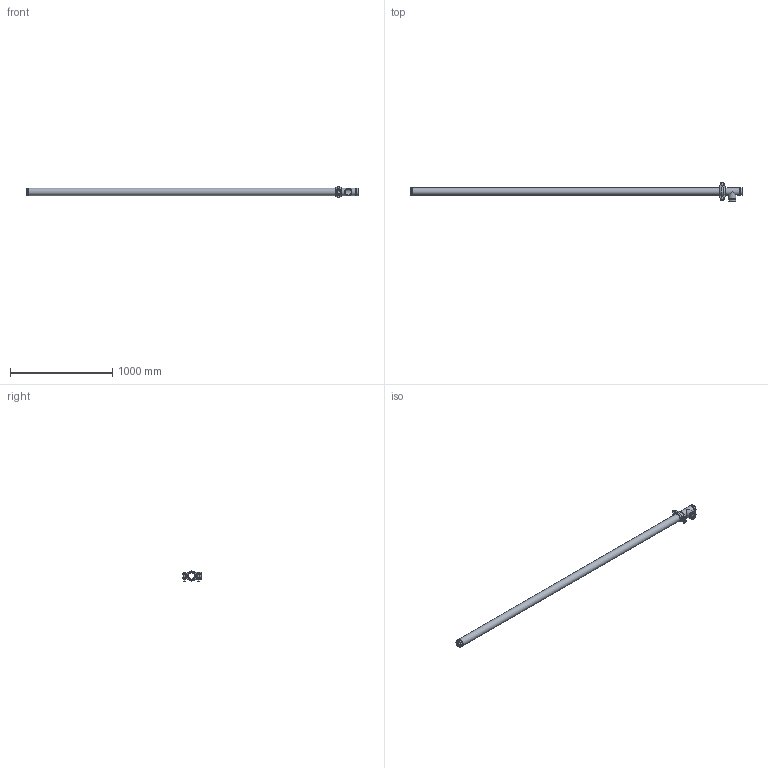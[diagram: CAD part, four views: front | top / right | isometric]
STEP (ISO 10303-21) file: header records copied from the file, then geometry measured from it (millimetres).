
FILE_DESCRIPTION(/* description */ ('VIC LONG RUN FITTING No R15 (OGS)','CAx-IF Rec.Pracs.---Representation and Presentation of Product Manufacturing Information (PMI)---4.0---2014-10-13'),/* implementation_level */ '2;1');
FILE_NAME(/* name */ 'C:\Users\Vjadhav\AppData\Roaming\Autodesk\ApplicationPlugins\Back Up\Victaulic_IPS_Long Run Fittings_No R15 (OGS)\Victaulic_IPS_Long Run Fittings_No R15 (OGS)_2.5 (65).stp',/* time_stamp */ '2020-10-06T19:03:54+06:00',/* author */ ('Vjadhav'),/* organization */ ('Victaulic'),/* preprocessor_version */ 'ST-DEVELOPER v17.2',/* originating_system */ 'Autodesk Inventor 2019',/* authorisation */ '');
FILE_SCHEMA (('AP242_MANAGED_MODEL_BASED_3D_ENGINEERING_MIM_LF { 1 0 10303 442 1 1 4 }'));
Length unit declared in the file: inch
Products named in the file (4): R15-02.5; 020-02.5; 107N-02.5; Pipe_R13-02.5
Assembly tree (3 placements, depth 2):
  R15-02.5
    020-02.5
    107N-02.5
    Pipe_R13-02.5
Bounding box: 3242.31 x 180.97 x 102.11 mm (x, y, z)
Volume: 3891947.5 mm3; surface area: 1470940.9 mm2
Topology: 3 solids, 3 shells, 154 faces, 401 edges, 272 vertices
Faces by surface type: plane 65, cylinder 61, bspline 18, cone 4, torus 4, sphere 2
Full cylindrical faces by diameter (mm): 12.7 x4, 22.225 x2, 60.325 x1, 62.713 x3, 69.088 x5, 73.025 x10
Entity records: 5719 total; most frequent: CARTESIAN_POINT 1490, DIRECTION 855, ORIENTED_EDGE 802, EDGE_CURVE 401, AXIS2_PLACEMENT_3D 339, VERTEX_POINT 272, EDGE_LOOP 185, LINE 177
